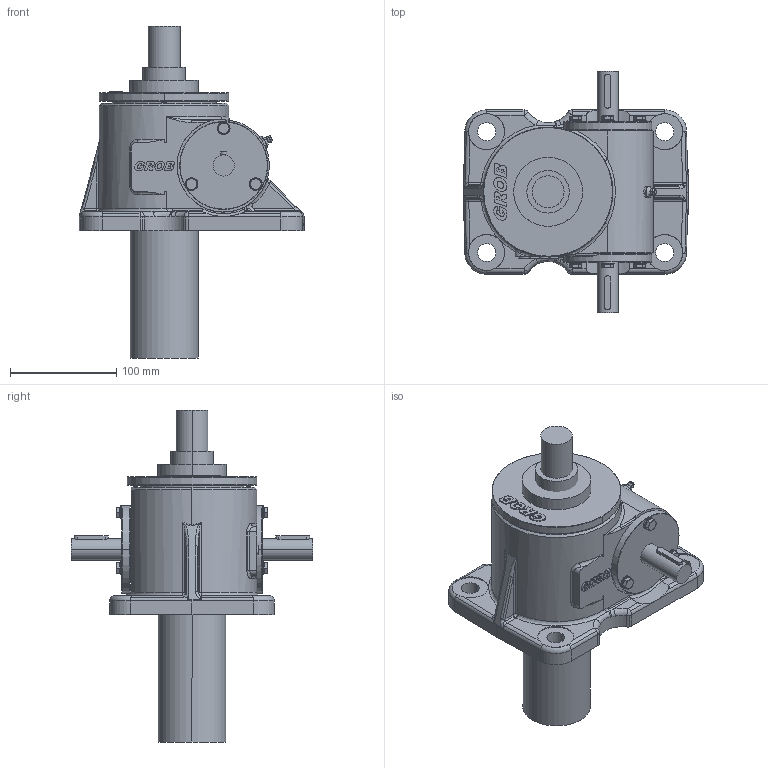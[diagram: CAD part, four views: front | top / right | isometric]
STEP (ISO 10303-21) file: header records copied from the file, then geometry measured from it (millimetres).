
FILE_DESCRIPTION(('STEP AP203'),'1');
FILE_NAME('mc5-gn-f-1f-ge-0100-0000-tr40x7-ab-mg0-o_ohne.stp','2023-12-18T13:32:27',('TraceParts'),('TraceParts S.A.'),'Spatial InterOp 3D',' ',' ');
FILE_SCHEMA(('CONFIG_CONTROL_DESIGN'));
Length unit declared in the file: millimetre
Products named in the file (1): 1
Bounding box: 212.6 x 228 x 313 mm (x, y, z)
Volume: 3154789.8 mm3; surface area: 236877 mm2
Topology: 3 solids, 3 shells, 740 faces, 1892 edges, 1192 vertices
Faces by surface type: cylinder 347, plane 224, cone 89, bspline 62, torus 12, sphere 6
Entity records: 24495 total; most frequent: CARTESIAN_POINT 6491, DIRECTION 3910, ORIENTED_EDGE 3744, EDGE_CURVE 1872, AXIS2_PLACEMENT_3D 1556, VERTEX_POINT 1192, EDGE_LOOP 818, LINE 798
